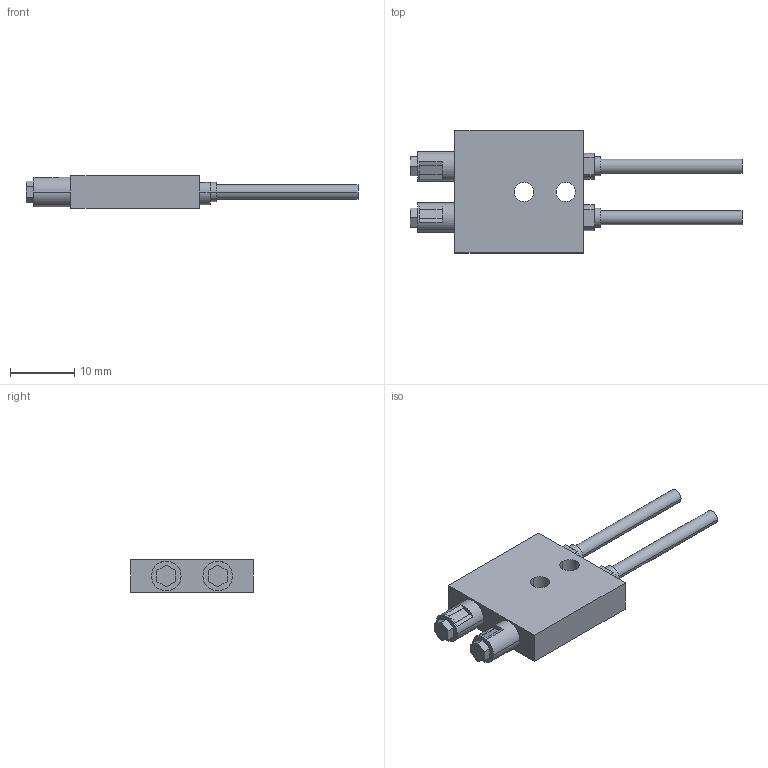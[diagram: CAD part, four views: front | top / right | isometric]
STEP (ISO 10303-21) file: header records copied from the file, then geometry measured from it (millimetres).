
FILE_DESCRIPTION (( 'STEP AP203' ), '1' );
FILE_NAME ('FD-H18-L31.STEP', '2005-09-04T09:37:54', ( '川島良英' ), ( ' ' ), 'SwSTEP 2.0', 'SolidWorks 2004251', '' );
FILE_SCHEMA (( 'CONFIG_CONTROL_DESIGN' ));
Length unit declared in the file: millimetre
Products named in the file (1): FD-H18-L31
Bounding box: 51.7 x 19 x 5 mm (x, y, z)
Volume: 2253.3 mm3; surface area: 1777.3 mm2
Topology: 1 solids, 1 shells, 66 faces, 160 edges, 106 vertices
Faces by surface type: plane 44, cylinder 22
Entity records: 2023 total; most frequent: DIRECTION 344, CARTESIAN_POINT 333, ORIENTED_EDGE 320, EDGE_CURVE 160, AXIS2_PLACEMENT_3D 117, VECTOR 110, LINE 110, VERTEX_POINT 106
